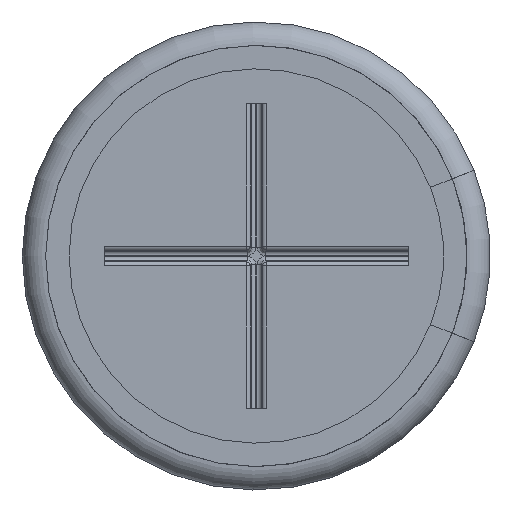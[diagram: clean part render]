
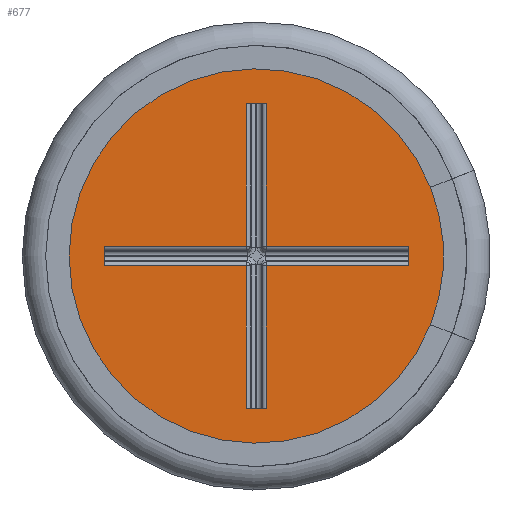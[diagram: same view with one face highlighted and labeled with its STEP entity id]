
A CAD part, front view. The second image highlights one B-rep face of the part: STEP entity #677.
In plain terms, the highlighted planar face has unit normal (0, -1, 0).
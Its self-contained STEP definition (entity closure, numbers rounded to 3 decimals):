
#115=FACE_BOUND('',#940,.T.);
#116=FACE_BOUND('',#941,.T.);
#633=PLANE('',#2470);
#677=ADVANCED_FACE('',(#115,#116),#633,.T.);
#940=EDGE_LOOP('',(#1374));
#941=EDGE_LOOP('',(#1375,#1376,#1377,#1378,#1379,#1380,#1381,#1382,#1383,
#1384,#1385,#1386));
#1066=LINE('',#3475,#1170);
#1067=LINE('',#3478,#1171);
#1068=LINE('',#3480,#1172);
#1069=LINE('',#3482,#1173);
#1070=LINE('',#3484,#1174);
#1071=LINE('',#3486,#1175);
#1072=LINE('',#3488,#1176);
#1073=LINE('',#3490,#1177);
#1074=LINE('',#3492,#1178);
#1075=LINE('',#3494,#1179);
#1076=LINE('',#3496,#1180);
#1077=LINE('',#3498,#1181);
#1170=VECTOR('',#2834,1.);
#1171=VECTOR('',#2835,1.);
#1172=VECTOR('',#2836,1.);
#1173=VECTOR('',#2837,1.);
#1174=VECTOR('',#2838,1.);
#1175=VECTOR('',#2839,1.);
#1176=VECTOR('',#2840,1.);
#1177=VECTOR('',#2841,1.);
#1178=VECTOR('',#2842,1.);
#1179=VECTOR('',#2843,1.);
#1180=VECTOR('',#2844,1.);
#1181=VECTOR('',#2845,1.);
#1374=ORIENTED_EDGE('',*,*,#2034,.T.);
#1375=ORIENTED_EDGE('',*,*,#2035,.F.);
#1376=ORIENTED_EDGE('',*,*,#2036,.T.);
#1377=ORIENTED_EDGE('',*,*,#2037,.T.);
#1378=ORIENTED_EDGE('',*,*,#2038,.T.);
#1379=ORIENTED_EDGE('',*,*,#2039,.T.);
#1380=ORIENTED_EDGE('',*,*,#2040,.T.);
#1381=ORIENTED_EDGE('',*,*,#2041,.T.);
#1382=ORIENTED_EDGE('',*,*,#2042,.T.);
#1383=ORIENTED_EDGE('',*,*,#2043,.T.);
#1384=ORIENTED_EDGE('',*,*,#2044,.F.);
#1385=ORIENTED_EDGE('',*,*,#2045,.T.);
#1386=ORIENTED_EDGE('',*,*,#2046,.T.);
#1838=VERTEX_POINT('',#3474);
#1839=VERTEX_POINT('',#3476);
#1840=VERTEX_POINT('',#3477);
#1841=VERTEX_POINT('',#3479);
#1842=VERTEX_POINT('',#3481);
#1843=VERTEX_POINT('',#3483);
#1844=VERTEX_POINT('',#3485);
#1845=VERTEX_POINT('',#3487);
#1846=VERTEX_POINT('',#3489);
#1847=VERTEX_POINT('',#3491);
#1848=VERTEX_POINT('',#3493);
#1849=VERTEX_POINT('',#3495);
#1850=VERTEX_POINT('',#3497);
#2034=EDGE_CURVE('',#1838,#1838,#2286,.T.);
#2035=EDGE_CURVE('',#1839,#1840,#1066,.T.);
#2036=EDGE_CURVE('',#1839,#1841,#1067,.T.);
#2037=EDGE_CURVE('',#1841,#1842,#1068,.T.);
#2038=EDGE_CURVE('',#1842,#1843,#1069,.T.);
#2039=EDGE_CURVE('',#1843,#1844,#1070,.T.);
#2040=EDGE_CURVE('',#1844,#1845,#1071,.T.);
#2041=EDGE_CURVE('',#1845,#1846,#1072,.T.);
#2042=EDGE_CURVE('',#1846,#1847,#1073,.T.);
#2043=EDGE_CURVE('',#1847,#1848,#1074,.T.);
#2044=EDGE_CURVE('',#1849,#1848,#1075,.T.);
#2045=EDGE_CURVE('',#1849,#1850,#1076,.T.);
#2046=EDGE_CURVE('',#1850,#1840,#1077,.T.);
#2286=CIRCLE('',#2469,4.5);
#2469=AXIS2_PLACEMENT_3D('',#3473,#2832,#2833);
#2470=AXIS2_PLACEMENT_3D('',#3499,#2846,#2847);
#2832=DIRECTION('',(0.,-1.,0.));
#2833=DIRECTION('',(0.,0.,-1.));
#2834=DIRECTION('',(0.,0.,1.));
#2835=DIRECTION('',(-1.,0.,0.));
#2836=DIRECTION('',(0.,0.,-1.));
#2837=DIRECTION('',(-1.,0.,0.));
#2838=DIRECTION('',(0.,0.,1.));
#2839=DIRECTION('',(-1.,0.,0.));
#2840=DIRECTION('',(0.,0.,1.));
#2841=DIRECTION('',(1.,0.,0.));
#2842=DIRECTION('',(0.,0.,1.));
#2843=DIRECTION('',(-1.,0.,0.));
#2844=DIRECTION('',(0.,0.,-1.));
#2845=DIRECTION('',(1.,0.,0.));
#2846=DIRECTION('',(0.,-1.,0.));
#2847=DIRECTION('',(0.,0.,-1.));
#3473=CARTESIAN_POINT('',(0.,0.1,0.));
#3474=CARTESIAN_POINT('',(0.,0.1,-4.5));
#3475=CARTESIAN_POINT('',(3.25,0.1,-0.15));
#3476=CARTESIAN_POINT('',(3.25,0.1,-0.212));
#3477=CARTESIAN_POINT('',(3.25,0.1,0.212));
#3478=CARTESIAN_POINT('',(0.15,0.1,-0.212));
#3479=CARTESIAN_POINT('',(0.212,0.1,-0.212));
#3480=CARTESIAN_POINT('',(0.212,0.1,-3.25));
#3481=CARTESIAN_POINT('',(0.212,0.1,-3.25));
#3482=CARTESIAN_POINT('',(0.15,0.1,-3.25));
#3483=CARTESIAN_POINT('',(-0.212,0.1,-3.25));
#3484=CARTESIAN_POINT('',(-0.212,0.1,-0.15));
#3485=CARTESIAN_POINT('',(-0.212,0.1,-0.212));
#3486=CARTESIAN_POINT('',(-3.25,0.1,-0.212));
#3487=CARTESIAN_POINT('',(-3.25,0.1,-0.212));
#3488=CARTESIAN_POINT('',(-3.25,0.1,-0.15));
#3489=CARTESIAN_POINT('',(-3.25,0.1,0.212));
#3490=CARTESIAN_POINT('',(-0.15,0.1,0.212));
#3491=CARTESIAN_POINT('',(-0.212,0.1,0.212));
#3492=CARTESIAN_POINT('',(-0.212,0.1,3.25));
#3493=CARTESIAN_POINT('',(-0.212,0.1,3.25));
#3494=CARTESIAN_POINT('',(0.15,0.1,3.25));
#3495=CARTESIAN_POINT('',(0.212,0.1,3.25));
#3496=CARTESIAN_POINT('',(0.212,0.1,0.15));
#3497=CARTESIAN_POINT('',(0.212,0.1,0.212));
#3498=CARTESIAN_POINT('',(3.25,0.1,0.212));
#3499=CARTESIAN_POINT('',(0.,0.1,0.));
